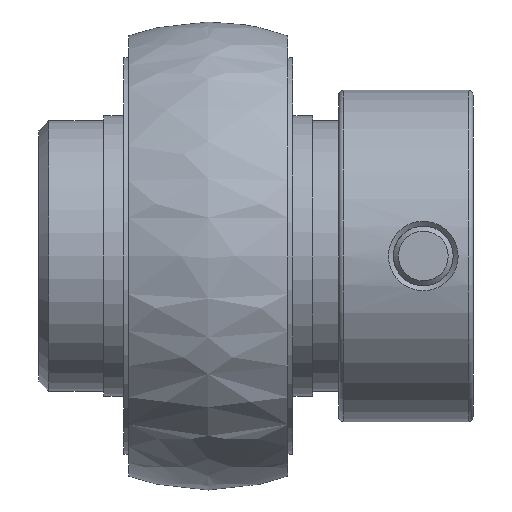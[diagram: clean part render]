
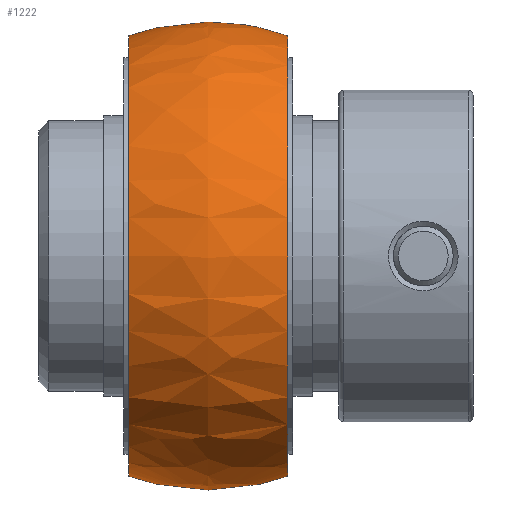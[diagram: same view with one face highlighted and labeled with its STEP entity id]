
A CAD part, front view. The second image highlights one B-rep face of the part: STEP entity #1222.
In plain terms, the highlighted spherical face has radius 23.5 mm.
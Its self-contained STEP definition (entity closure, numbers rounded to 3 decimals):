
#83=SPHERICAL_SURFACE('',#1346,23.5);
#107=B_SPLINE_CURVE_WITH_KNOTS('',3,(#2163,#2164,#2165,#2166,#2167,#2168,
#2169,#2170,#2171,#2172,#2173,#2174,#2175,#2176,#2177,#2178,#2179,#2180,
#2181,#2182,#2183,#2184,#2185,#2186,#2187,#2188,#2189,#2190,#2191,#2192,
#2193,#2194,#2195,#2196),.UNSPECIFIED.,.T.,.F.,(4,2,2,2,2,2,2,2,2,2,2,2,
2,2,2,2,4),(0.,0.023,0.045,0.069,
0.093,0.116,0.14,0.163,
0.185,0.208,0.23,0.254,
0.278,0.302,0.326,0.348,
0.371),.UNSPECIFIED.);
#109=B_SPLINE_CURVE_WITH_KNOTS('',3,(#2234,#2235,#2236,#2237,#2238,#2239,
#2240,#2241,#2242,#2243,#2244,#2245,#2246,#2247,#2248,#2249,#2250,#2251,
#2252,#2253,#2254,#2255,#2256,#2257,#2258,#2259,#2260,#2261,#2262,#2263,
#2264,#2265,#2266,#2267),.UNSPECIFIED.,.T.,.F.,(4,2,2,2,2,2,2,2,2,2,2,2,
2,2,2,2,4),(0.,0.023,0.045,0.069,0.093,
0.116,0.14,0.163,0.185,
0.208,0.23,0.254,0.278,
0.302,0.326,0.348,0.371),
 .UNSPECIFIED.);
#270=FACE_BOUND('',#441,.T.);
#271=FACE_BOUND('',#442,.T.);
#272=FACE_BOUND('',#443,.T.);
#273=FACE_BOUND('',#444,.T.);
#441=EDGE_LOOP('',(#957));
#442=EDGE_LOOP('',(#958));
#443=EDGE_LOOP('',(#959));
#444=EDGE_LOOP('',(#960));
#536=CIRCLE('',#1338,22.096);
#539=CIRCLE('',#1345,22.096);
#642=VERTEX_POINT('',#2162);
#644=VERTEX_POINT('',#2233);
#652=VERTEX_POINT('',#2320);
#655=VERTEX_POINT('',#2330);
#760=EDGE_CURVE('',#642,#642,#107,.T.);
#762=EDGE_CURVE('',#644,#644,#109,.T.);
#770=EDGE_CURVE('',#652,#652,#536,.T.);
#773=EDGE_CURVE('',#655,#655,#539,.T.);
#957=ORIENTED_EDGE('',*,*,#760,.T.);
#958=ORIENTED_EDGE('',*,*,#762,.T.);
#959=ORIENTED_EDGE('',*,*,#773,.T.);
#960=ORIENTED_EDGE('',*,*,#770,.F.);
#1222=ADVANCED_FACE('',(#270,#271,#272,#273),#83,.T.);
#1338=AXIS2_PLACEMENT_3D('',#2321,#1615,#1616);
#1345=AXIS2_PLACEMENT_3D('',#2331,#1629,#1630);
#1346=AXIS2_PLACEMENT_3D('',#2332,#1631,#1632);
#1615=DIRECTION('center_axis',(1.,0.,0.));
#1616=DIRECTION('ref_axis',(0.,0.,-1.));
#1629=DIRECTION('center_axis',(1.,0.,0.));
#1630=DIRECTION('ref_axis',(0.,0.,-1.));
#1631=DIRECTION('center_axis',(0.,0.,1.));
#1632=DIRECTION('ref_axis',(1.,0.,0.));
#2162=CARTESIAN_POINT('',(3.581,0.,23.226));
#2163=CARTESIAN_POINT('Ctrl Pts',(3.581,0.,
23.226));
#2164=CARTESIAN_POINT('Ctrl Pts',(3.581,0.075,23.226));
#2165=CARTESIAN_POINT('Ctrl Pts',(3.597,0.155,23.223));
#2166=CARTESIAN_POINT('Ctrl Pts',(3.659,0.301,23.212));
#2167=CARTESIAN_POINT('Ctrl Pts',(3.705,0.368,23.203));
#2168=CARTESIAN_POINT('Ctrl Pts',(3.815,0.475,23.184));
#2169=CARTESIAN_POINT('Ctrl Pts',(3.885,0.523,23.171));
#2170=CARTESIAN_POINT('Ctrl Pts',(4.04,0.585,23.143));
#2171=CARTESIAN_POINT('Ctrl Pts',(4.123,0.6,23.128));
#2172=CARTESIAN_POINT('Ctrl Pts',(4.279,0.6,23.099));
#2173=CARTESIAN_POINT('Ctrl Pts',(4.363,0.585,23.084));
#2174=CARTESIAN_POINT('Ctrl Pts',(4.517,0.523,23.056));
#2175=CARTESIAN_POINT('Ctrl Pts',(4.588,0.475,23.043));
#2176=CARTESIAN_POINT('Ctrl Pts',(4.697,0.368,23.023));
#2177=CARTESIAN_POINT('Ctrl Pts',(4.743,0.301,23.014));
#2178=CARTESIAN_POINT('Ctrl Pts',(4.806,0.155,23.003));
#2179=CARTESIAN_POINT('Ctrl Pts',(4.821,0.075,23.));
#2180=CARTESIAN_POINT('Ctrl Pts',(4.821,-0.075,23.));
#2181=CARTESIAN_POINT('Ctrl Pts',(4.806,-0.155,23.003));
#2182=CARTESIAN_POINT('Ctrl Pts',(4.743,-0.301,23.014));
#2183=CARTESIAN_POINT('Ctrl Pts',(4.697,-0.368,23.023));
#2184=CARTESIAN_POINT('Ctrl Pts',(4.588,-0.475,23.043));
#2185=CARTESIAN_POINT('Ctrl Pts',(4.517,-0.523,23.056));
#2186=CARTESIAN_POINT('Ctrl Pts',(4.363,-0.585,23.084));
#2187=CARTESIAN_POINT('Ctrl Pts',(4.279,-0.6,23.099));
#2188=CARTESIAN_POINT('Ctrl Pts',(4.123,-0.6,23.128));
#2189=CARTESIAN_POINT('Ctrl Pts',(4.04,-0.585,23.143));
#2190=CARTESIAN_POINT('Ctrl Pts',(3.885,-0.523,23.171));
#2191=CARTESIAN_POINT('Ctrl Pts',(3.815,-0.475,23.184));
#2192=CARTESIAN_POINT('Ctrl Pts',(3.705,-0.368,23.203));
#2193=CARTESIAN_POINT('Ctrl Pts',(3.659,-0.301,23.212));
#2194=CARTESIAN_POINT('Ctrl Pts',(3.597,-0.155,23.223));
#2195=CARTESIAN_POINT('Ctrl Pts',(3.581,-0.075,23.226));
#2196=CARTESIAN_POINT('Ctrl Pts',(3.581,0.,
23.226));
#2233=CARTESIAN_POINT('',(3.581,23.226,0.));
#2234=CARTESIAN_POINT('Ctrl Pts',(3.581,23.226,0.));
#2235=CARTESIAN_POINT('Ctrl Pts',(3.581,23.226,-0.075));
#2236=CARTESIAN_POINT('Ctrl Pts',(3.597,23.223,-0.155));
#2237=CARTESIAN_POINT('Ctrl Pts',(3.659,23.212,-0.301));
#2238=CARTESIAN_POINT('Ctrl Pts',(3.705,23.203,-0.368));
#2239=CARTESIAN_POINT('Ctrl Pts',(3.815,23.184,-0.475));
#2240=CARTESIAN_POINT('Ctrl Pts',(3.885,23.171,-0.523));
#2241=CARTESIAN_POINT('Ctrl Pts',(4.04,23.143,-0.585));
#2242=CARTESIAN_POINT('Ctrl Pts',(4.123,23.128,-0.6));
#2243=CARTESIAN_POINT('Ctrl Pts',(4.279,23.099,-0.6));
#2244=CARTESIAN_POINT('Ctrl Pts',(4.363,23.084,-0.585));
#2245=CARTESIAN_POINT('Ctrl Pts',(4.517,23.056,-0.523));
#2246=CARTESIAN_POINT('Ctrl Pts',(4.588,23.043,-0.475));
#2247=CARTESIAN_POINT('Ctrl Pts',(4.697,23.023,-0.368));
#2248=CARTESIAN_POINT('Ctrl Pts',(4.743,23.014,-0.301));
#2249=CARTESIAN_POINT('Ctrl Pts',(4.806,23.003,-0.155));
#2250=CARTESIAN_POINT('Ctrl Pts',(4.821,23.,-0.075));
#2251=CARTESIAN_POINT('Ctrl Pts',(4.821,23.,0.075));
#2252=CARTESIAN_POINT('Ctrl Pts',(4.806,23.003,0.155));
#2253=CARTESIAN_POINT('Ctrl Pts',(4.743,23.014,0.301));
#2254=CARTESIAN_POINT('Ctrl Pts',(4.697,23.023,0.368));
#2255=CARTESIAN_POINT('Ctrl Pts',(4.588,23.043,0.475));
#2256=CARTESIAN_POINT('Ctrl Pts',(4.517,23.056,0.523));
#2257=CARTESIAN_POINT('Ctrl Pts',(4.363,23.084,0.585));
#2258=CARTESIAN_POINT('Ctrl Pts',(4.279,23.099,0.6));
#2259=CARTESIAN_POINT('Ctrl Pts',(4.123,23.128,0.6));
#2260=CARTESIAN_POINT('Ctrl Pts',(4.04,23.143,0.585));
#2261=CARTESIAN_POINT('Ctrl Pts',(3.885,23.171,0.523));
#2262=CARTESIAN_POINT('Ctrl Pts',(3.815,23.184,0.475));
#2263=CARTESIAN_POINT('Ctrl Pts',(3.705,23.203,0.368));
#2264=CARTESIAN_POINT('Ctrl Pts',(3.659,23.212,0.301));
#2265=CARTESIAN_POINT('Ctrl Pts',(3.597,23.223,0.155));
#2266=CARTESIAN_POINT('Ctrl Pts',(3.581,23.226,0.075));
#2267=CARTESIAN_POINT('Ctrl Pts',(3.581,23.226,0.));
#2320=CARTESIAN_POINT('',(8.,22.096,0.));
#2321=CARTESIAN_POINT('Origin',(8.,0.,0.));
#2330=CARTESIAN_POINT('',(-8.,22.096,0.));
#2331=CARTESIAN_POINT('Origin',(-8.,0.,0.));
#2332=CARTESIAN_POINT('Origin',(0.,0.,0.));
